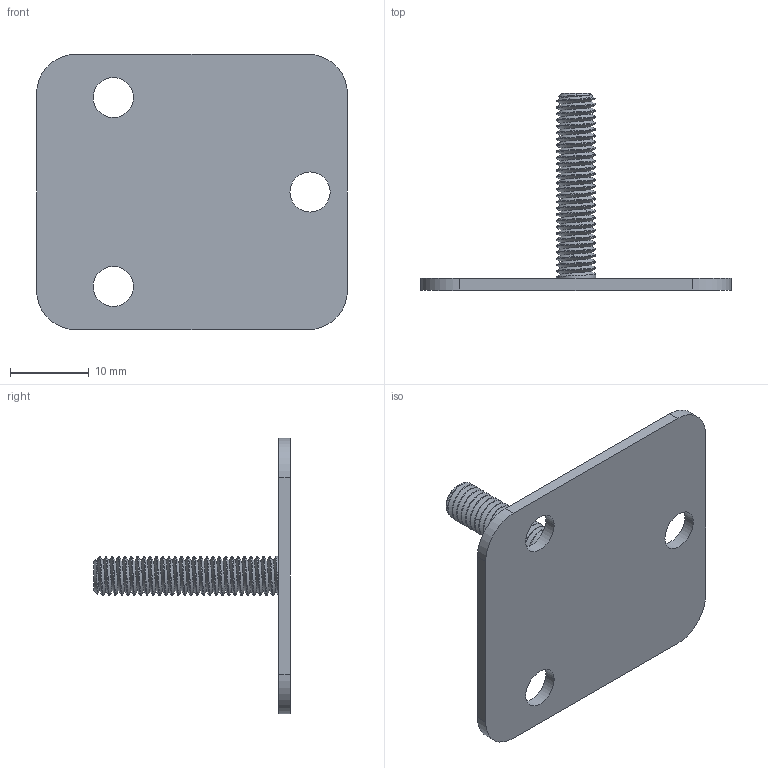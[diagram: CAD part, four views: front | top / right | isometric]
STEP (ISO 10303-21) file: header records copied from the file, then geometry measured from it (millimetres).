
FILE_DESCRIPTION((''),'2;1');
FILE_NAME('30162-01','2013-08-22T',('Barton'),(''),'PRO/ENGINEER BY PARAMETRIC TECHNOLOGY CORPORATION, 2013150','PRO/ENGINEER BY PARAMETRIC TECHNOLOGY CORPORATION, 2013150','');
FILE_SCHEMA(('CONFIG_CONTROL_DESIGN'));
Length unit declared in the file: millimetre
Products named in the file (1): 30162-01
Bounding box: 39.5 x 25 x 35 mm (x, y, z)
Volume: 2320.4 mm3; surface area: 3481.4 mm2
Topology: 1 solids, 1 shells, 95 faces, 266 edges, 174 vertices
Faces by surface type: cylinder 66, bspline 19, plane 8, cone 2
Entity records: 7652 total; most frequent: CARTESIAN_POINT 5349, ORIENTED_EDGE 532, DIRECTION 299, EDGE_CURVE 266, VERTEX_POINT 174, B_SPLINE_CURVE_WITH_KNOTS 143, EDGE_LOOP 102, AXIS2_PLACEMENT_3D 100
